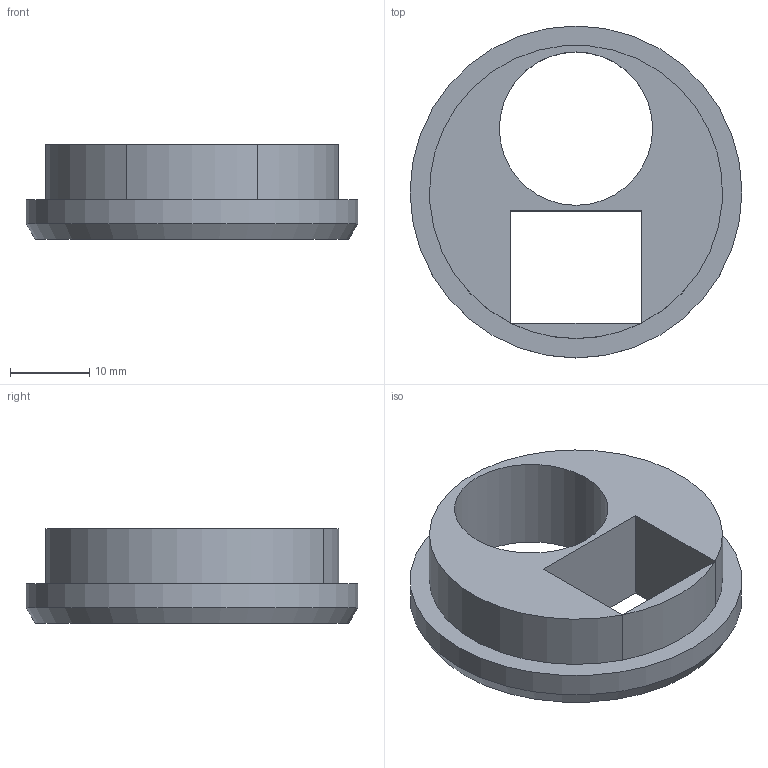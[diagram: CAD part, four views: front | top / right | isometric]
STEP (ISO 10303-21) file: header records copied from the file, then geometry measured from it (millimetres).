
FILE_DESCRIPTION(('Open CASCADE Model'),'2;1');
FILE_NAME('Open CASCADE Shape Model','2026-11-19T20:29:08',('Author'),( 'Open CASCADE'),'Open CASCADE STEP processor 8.0','build123d', 'Unknown');
FILE_SCHEMA(('AUTOMOTIVE_DESIGN { 1 0 10303 214 1 1 1 1 }'));
Length unit declared in the file: millimetre
Products named in the file (1): COMPOUND
Bounding box: 42 x 42 x 12 mm (x, y, z)
Volume: 7963.4 mm3; surface area: 4534.9 mm2
Topology: 1 solids, 1 shells, 13 faces, 32 edges, 21 vertices
Faces by surface type: plane 8, cylinder 4, cone 1
Full cylindrical faces by diameter (mm): 19.4 x1, 42 x1
Entity records: 794 total; most frequent: CARTESIAN_POINT 176, DIRECTION 98, ORIENTED_EDGE 64, PCURVE 64, DEFINITIONAL_REPRESENTATION 64, LINE 46, VECTOR 46, B_SPLINE_CURVE_WITH_KNOTS 33
